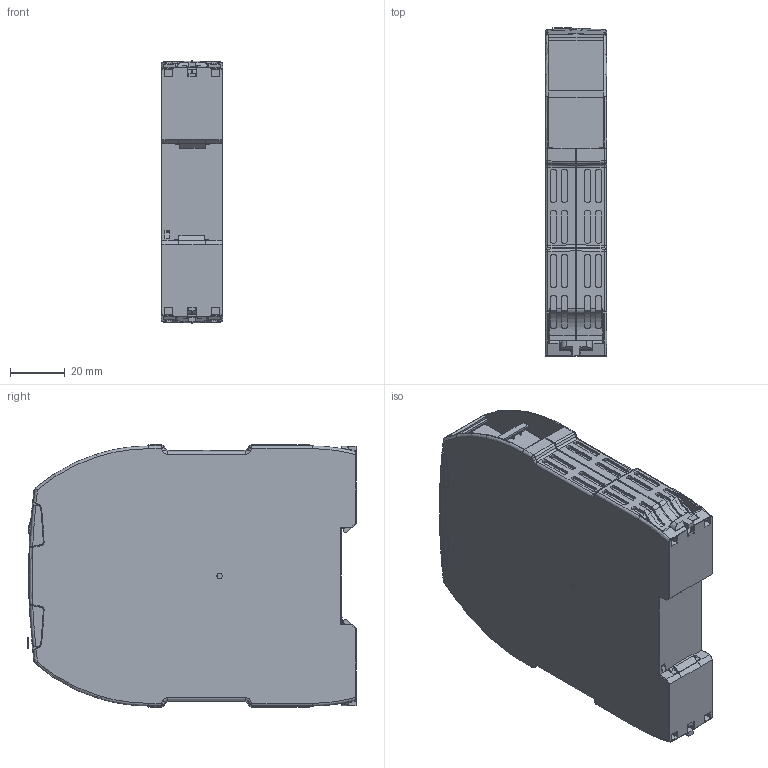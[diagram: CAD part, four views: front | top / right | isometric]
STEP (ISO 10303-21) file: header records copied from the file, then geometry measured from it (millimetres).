
FILE_DESCRIPTION((''),'2;1');
FILE_NAME('2012732','2016-03-01T',('merz'),(''),'PRO/ENGINEER BY PARAMETRIC TECHNOLOGY CORPORATION, 2015280','PRO/ENGINEER BY PARAMETRIC TECHNOLOGY CORPORATION, 2015280','');
FILE_SCHEMA(('AUTOMOTIVE_DESIGN { 1 0 10303 214 1 1 1 1 }'));
Products named in the file (1): 2012732
Bounding box: 22.5 x 120.2 x 96 mm (x, y, z)
Volume: 216962.2 mm3; surface area: 40158.1 mm2
Topology: 8 solids, 8 shells, 1602 faces, 4447 edges, 2841 vertices
Faces by surface type: plane 828, cylinder 506, bspline 154, torus 63, cone 29, sphere 16, extrusion 6
Entity records: 78068 total; most frequent: CARTESIAN_POINT 25840, ORIENTED_EDGE 8862, DIRECTION 6908, PRESENTATION_STYLE_ASSIGNMENT 4444, STYLED_ITEM 4439, CURVE_STYLE 4431, EDGE_CURVE 4431, VERTEX_POINT 2841
